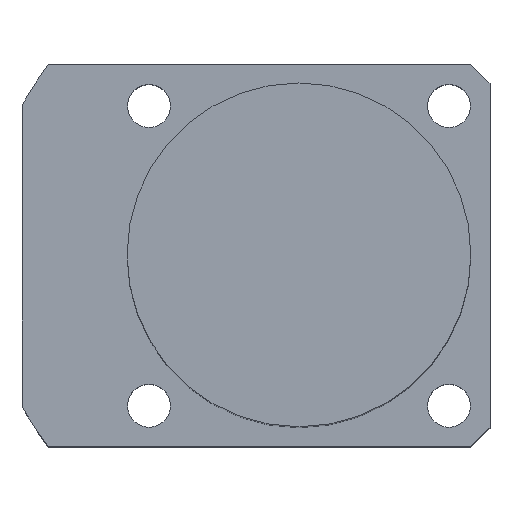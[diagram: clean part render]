
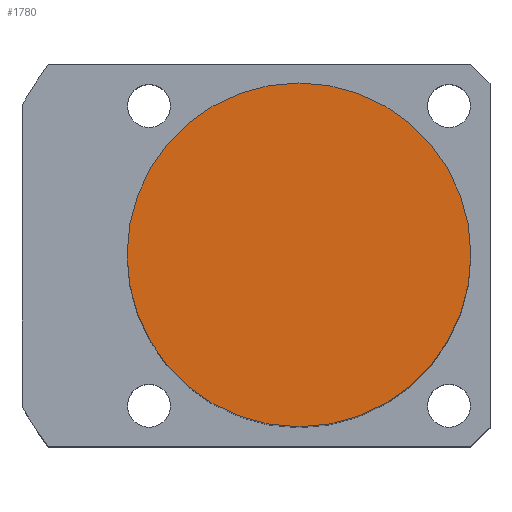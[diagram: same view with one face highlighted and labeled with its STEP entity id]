
A CAD part, top view. The second image highlights one B-rep face of the part: STEP entity #1780.
In plain terms, the highlighted planar face has unit normal (0, 0, 1).
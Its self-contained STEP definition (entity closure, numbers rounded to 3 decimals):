
#48 = AXIS2_PLACEMENT_3D ( 'NONE', #2879, #1013, #3199 ) ;
#59 = CIRCLE ( 'NONE', #1187, 18. ) ;
#113 = ORIENTED_EDGE ( 'NONE', *, *, #1515, .T. ) ;
#381 = DIRECTION ( 'NONE',  ( 0., 0., 1. ) ) ;
#387 = EDGE_CURVE ( 'NONE', #2623, #507, #59, .T. ) ;
#507 = VERTEX_POINT ( 'NONE', #2397 ) ;
#510 = PLANE ( 'NONE',  #2748 ) ;
#825 = DIRECTION ( 'NONE',  ( 1., 0., 0. ) ) ;
#1013 = DIRECTION ( 'NONE',  ( 0., 0., 1. ) ) ;
#1187 = AXIS2_PLACEMENT_3D ( 'NONE', #2252, #381, #2557 ) ;
#1440 = CARTESIAN_POINT ( 'NONE',  ( 0., 0., 68.5 ) ) ;
#1515 = EDGE_CURVE ( 'NONE', #507, #2623, #3921, .T. ) ;
#1757 = ORIENTED_EDGE ( 'NONE', *, *, #387, .T. ) ;
#1776 = FACE_OUTER_BOUND ( 'NONE', #3086, .T. ) ;
#1780 = ADVANCED_FACE ( 'NONE', ( #1776 ), #510, .T. ) ;
#1808 = CARTESIAN_POINT ( 'NONE',  ( 18., 0., 68.5 ) ) ;
#2252 = CARTESIAN_POINT ( 'NONE',  ( 0., 0., 68.5 ) ) ;
#2397 = CARTESIAN_POINT ( 'NONE',  ( -18., 0., 68.5 ) ) ;
#2557 = DIRECTION ( 'NONE',  ( 1., 0., 0. ) ) ;
#2623 = VERTEX_POINT ( 'NONE', #1808 ) ;
#2677 = DIRECTION ( 'NONE',  ( 0., 0., 1. ) ) ;
#2748 = AXIS2_PLACEMENT_3D ( 'NONE', #1440, #2677, #825 ) ;
#2879 = CARTESIAN_POINT ( 'NONE',  ( 0., 0., 68.5 ) ) ;
#3086 = EDGE_LOOP ( 'NONE', ( #113, #1757 ) ) ;
#3199 = DIRECTION ( 'NONE',  ( 1., 0., 0. ) ) ;
#3921 = CIRCLE ( 'NONE', #48, 18. ) ;
